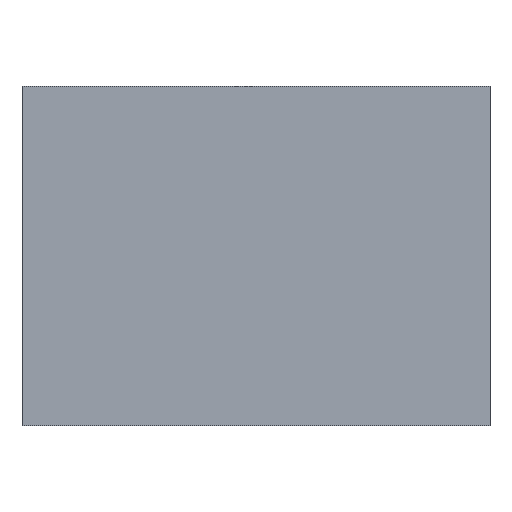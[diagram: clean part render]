
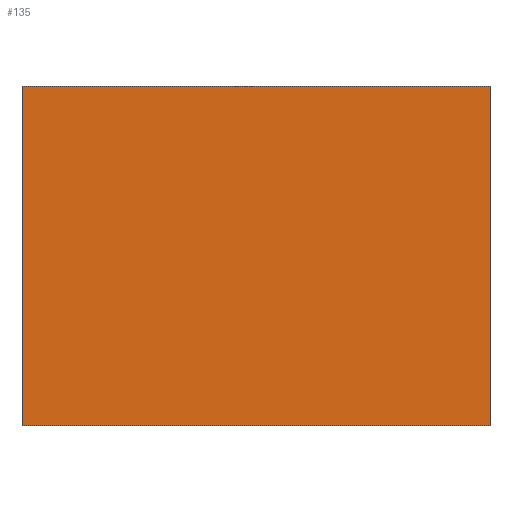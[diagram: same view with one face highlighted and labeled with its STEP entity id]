
A CAD part, front view. The second image highlights one B-rep face of the part: STEP entity #135.
In plain terms, the highlighted planar face has unit normal (0, -1, 0).
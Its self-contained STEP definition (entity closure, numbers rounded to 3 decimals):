
#7 = CARTESIAN_POINT ( 'NONE',  ( 315.5, 0., 229. ) ) ;
#23 = CARTESIAN_POINT ( 'NONE',  ( 0., 0., 0. ) ) ;
#26 = CARTESIAN_POINT ( 'NONE',  ( -315.5, 0., 229. ) ) ;
#31 = CARTESIAN_POINT ( 'NONE',  ( -315.5, 0., -229. ) ) ;
#33 = FACE_OUTER_BOUND ( 'NONE', #175, .T. ) ;
#35 = CARTESIAN_POINT ( 'NONE',  ( -315.5, 0., 229. ) ) ;
#42 = EDGE_CURVE ( 'NONE', #85, #75, #93, .T. ) ;
#48 = VECTOR ( 'NONE', #195, 1000. ) ;
#51 = EDGE_CURVE ( 'NONE', #75, #65, #181, .T. ) ;
#56 = LINE ( 'NONE', #31, #189 ) ;
#65 = VERTEX_POINT ( 'NONE', #7 ) ;
#75 = VERTEX_POINT ( 'NONE', #182 ) ;
#76 = DIRECTION ( 'NONE',  ( 0., 0., -1. ) ) ;
#77 = DIRECTION ( 'NONE',  ( 0., 0., 1. ) ) ;
#80 = EDGE_CURVE ( 'NONE', #107, #85, #56, .T. ) ;
#85 = VERTEX_POINT ( 'NONE', #113 ) ;
#88 = CARTESIAN_POINT ( 'NONE',  ( 315.5, 0., 229. ) ) ;
#89 = LINE ( 'NONE', #88, #48 ) ;
#90 = ORIENTED_EDGE ( 'NONE', *, *, #51, .F. ) ;
#92 = DIRECTION ( 'NONE',  ( 1., 0., 0. ) ) ;
#93 = LINE ( 'NONE', #35, #192 ) ;
#94 = PLANE ( 'NONE',  #99 ) ;
#99 = AXIS2_PLACEMENT_3D ( 'NONE', #23, #165, #76 ) ;
#102 = ORIENTED_EDGE ( 'NONE', *, *, #80, .F. ) ;
#107 = VERTEX_POINT ( 'NONE', #203 ) ;
#111 = DIRECTION ( 'NONE',  ( -1., 0., 0. ) ) ;
#113 = CARTESIAN_POINT ( 'NONE',  ( -315.5, 0., -229. ) ) ;
#124 = VECTOR ( 'NONE', #92, 1000. ) ;
#135 = ADVANCED_FACE ( 'NONE', ( #33 ), #94, .T. ) ;
#165 = DIRECTION ( 'NONE',  ( 0., -1., 0. ) ) ;
#169 = EDGE_CURVE ( 'NONE', #65, #107, #89, .T. ) ;
#175 = EDGE_LOOP ( 'NONE', ( #222, #90, #209, #102 ) ) ;
#181 = LINE ( 'NONE', #26, #124 ) ;
#182 = CARTESIAN_POINT ( 'NONE',  ( -315.5, 0., 229. ) ) ;
#189 = VECTOR ( 'NONE', #111, 1000. ) ;
#192 = VECTOR ( 'NONE', #77, 1000. ) ;
#195 = DIRECTION ( 'NONE',  ( 0., 0., -1. ) ) ;
#203 = CARTESIAN_POINT ( 'NONE',  ( 315.5, 0., -229. ) ) ;
#209 = ORIENTED_EDGE ( 'NONE', *, *, #42, .F. ) ;
#222 = ORIENTED_EDGE ( 'NONE', *, *, #169, .F. ) ;
